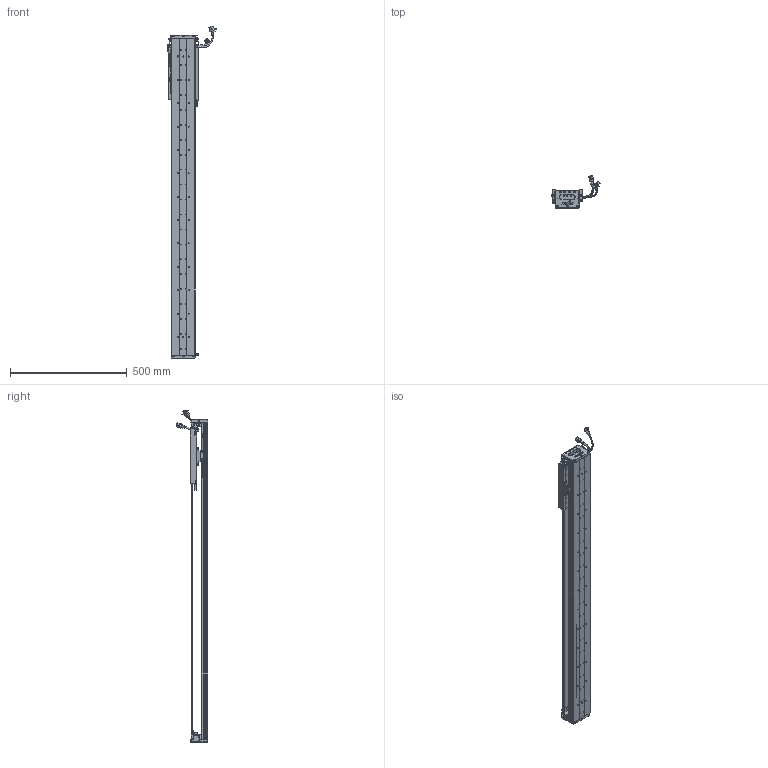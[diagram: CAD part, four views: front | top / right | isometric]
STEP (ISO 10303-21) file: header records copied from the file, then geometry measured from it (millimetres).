
FILE_DESCRIPTION (( 'STEP AP203' ), '1' );
FILE_NAME ('Z3-RY100D-1-L500-B-K.SLDASM_1050.step', '2021-05-17T02:50:21', ( '盈信电脑' ), ( '东莞市道滘镇水果街19号' ), 'SwSTEP 2.0', 'SolidWorks 2016', '' );
FILE_SCHEMA (( 'CONFIG_CONTROL_DESIGN' ));
Length unit declared in the file: millimetre
Products named in the file (36): 080黍杅芛假蚾釱21遴; SCREW-M1.6-2; Z3-RY100D-1-L500-B-K.SLDASM_1050; LABEL; COVER; HARNESS-Part-2; Z-100詩湍傷裔啣; SCREW-M1.7; COVER-Part-1; Z3-RY100铝滑块（21款）; SCREW-M1.7-1; 140雄赽晤鎢ん堤盄; Z3-RY100D-500-倰第菁釱_1050; 覜茼ん672; SCALE-Part-2; SHIELDPLATE; Z-RY100D覜茼んえ; SCALE-Part-1; Z-RY100D詩湍狟揤裔; PSLH080_PSLF2; SCREW-M1.6-1; Z3-RY100-L500詩湍90mm遵_1050; Z-RY100D詩湍奻揤裔; SCREW-M1.6; 140蚥薯蝶輸; 榋妏寠巭燃_暯_M2_2; HOLDER0; SCALE; LABEL-Part-1; SCREW-M1.6-3; PBU_SHEET; HARNESS; 100-Z-臏賑輸盄裔(21遴); HARNESS-Part-1; SEAL-Part-1; SEAL
Assembly tree (43 placements, depth 4):
  Z3-RY100D-1-L500-B-K.SLDASM_1050
    Z3-RY100D-500-倰第菁釱_1050
    Z3-RY100铝滑块（21款）
    PSLH080_PSLF2
      SCALE
        SCALE-Part-1
        SCALE-Part-2
      HARNESS
        HARNESS-Part-1
        HARNESS-Part-2
      LABEL
        LABEL-Part-1
      COVER
        COVER-Part-1
      SEAL
        SEAL-Part-1
      榋妏寠巭燃_暯_M2_2
      SHIELDPLATE
      SCREW-M1.7
      SCREW-M1.7-1
      PBU_SHEET
      SCREW-M1.6
      SCREW-M1.6-1
      SCREW-M1.6-2
      SCREW-M1.6-3
      HOLDER0
    080黍杅芛假蚾釱21遴
    Z-100詩湍傷裔啣  x2
    140蚥薯蝶輸  x2
    覜茼ん672  x3
    Z-RY100D覜茼んえ  x3
    100-Z-臏賑輸盄裔(21遴)
    140雄赽晤鎢ん堤盄
    Z3-RY100-L500詩湍90mm遵_1050
    Z-RY100D詩湍狟揤裔  x2
    Z-RY100D詩湍奻揤裔  x2
Bounding box: 205.84 x 136.11 x 1420.43 mm (x, y, z)
Volume: 2896009.5 mm3; surface area: 1114429.6 mm2
Topology: 38 solids, 38 shells, 2661 faces, 7039 edges, 4460 vertices
Faces by surface type: cylinder 1182, plane 1131, cone 226, torus 69, bspline 53
Entity records: 73233 total; most frequent: CARTESIAN_POINT 15409, DIRECTION 11641, ORIENTED_EDGE 10958, EDGE_CURVE 5479, AXIS2_PLACEMENT_3D 4300, VERTEX_POINT 3528, VECTOR 3041, LINE 3041
